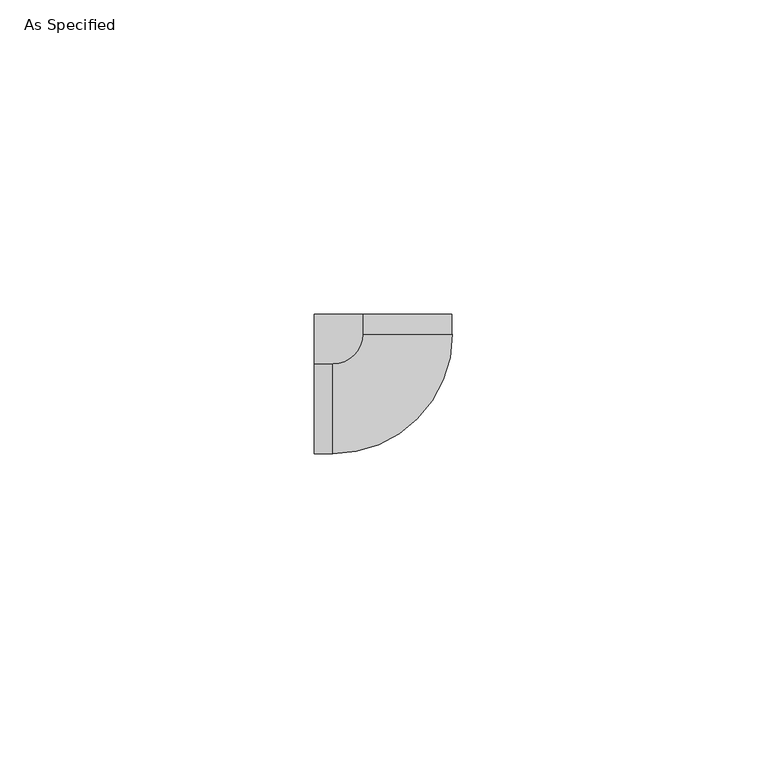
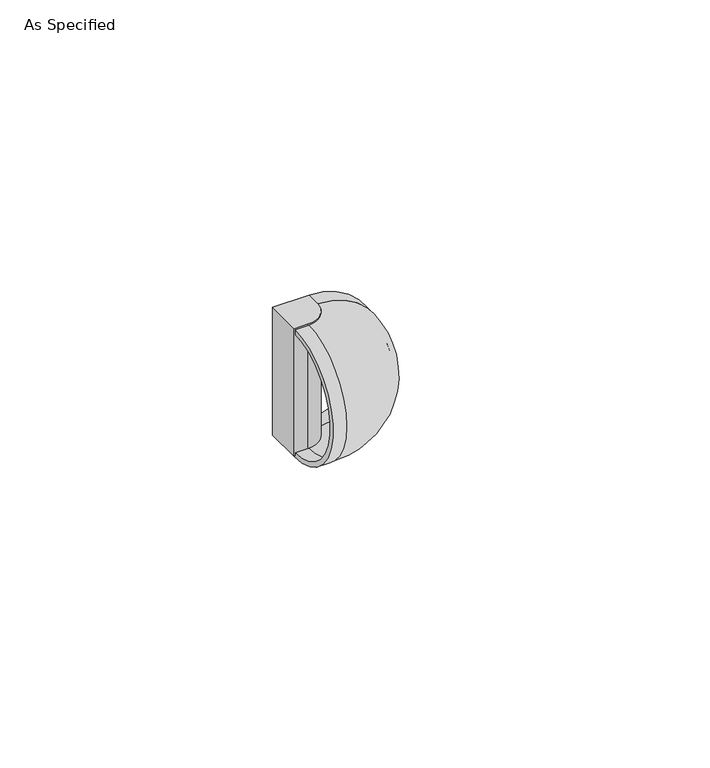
"""IFC4 building model written with IfcOpenShell, lengths in millimetres: proxy geometry, Bumper_McCue_CartGuard_1FLX_CG-10_End-Cap : As Specified."""

from ifc_helpers import new_model, si_unit, point, frame, frame_2d, origin, origin_with_axes, place, context, project, spatial, polyline, circle_curve, ellipse_curve, trimmed, segment, composite_curve, outline, extrude, source, transform, mapped, element, save
from ifc_brep_helpers import plane_surface, cylinder_surface, revolved_surface, advanced_brep


def as_specified_67cec5ee(model_context):
    return source(origin(), model_context, "Body", "SolidModel", [
        extrude(outline(composite_curve([segment(polyline([(7.7, 0.0), (7.7, -3.173)]), True, "CONTINUOUS"), segment(trimmed(circle_curve(frame_2d((2.973, -3.173)), 4.727), [point((7.7, -3.173))], [point((2.973, -7.9))], False, "CARTESIAN"), True, "CONTINUOUS"), segment(polyline([(2.973, -7.9), (0.0, -7.9), (0.0, 0.0), (7.7, 0.0)]), True, "CONTINUOUS")], self_intersect=False)), origin_with_axes(), (0.0, 0.0, 1.0), 28.6),
        advanced_brep(
        [(7.7, 0.0, 0.0), (7.7, 0.0, 1.0), (7.7, 0.0, 27.6), (7.7, 0.0, 28.6), (7.7, -3.173, 28.6), (7.7, -3.173, 0.0), (7.7, -3.173, 27.6), (7.7, -3.173, 1.0), (2.973, -7.9, 0.0), (2.973, -7.9, 28.6), (2.973, -7.9, 27.6), (2.973, -7.9, 1.0), (0.0, -7.9, 0.0), (0.0, -7.9, 28.6), (0.0, -7.9, 27.6), (0.0, -7.9, 1.0)],
        [
            (0, 1),
            (1, 2, circle_curve(frame((7.7, 0.0, 14.3), z_axis=(0.0, -1.0, 0.0), x_axis=(-1.0, 0.0, 0.0)), 13.3)),
            (2, 3),
            (3, 0, circle_curve(frame((7.7, 0.0, 14.3), z_axis=(0.0, 1.0, 0.0), x_axis=(-1.0, 0.0, 0.0)), 14.3)),
            (3, 4),
            (4, 5, circle_curve(frame((7.7, -3.173, 14.3), z_axis=(0.0, 1.0, 0.0), x_axis=(-1.0, 0.0, 0.0)), 14.3)),
            (5, 0),
            (2, 6),
            (6, 4),
            (1, 7),
            (7, 6, circle_curve(frame((7.7, -3.173, 14.3), z_axis=(0.0, -1.0, 0.0), x_axis=(-1.0, 0.0, 0.0)), 13.3)),
            (5, 7),
            (8, 5, circle_curve(frame((2.973, -3.173, 0.0), z_axis=(0.0, 0.0, 1.0), x_axis=(1.0, 0.0, 0.0)), 4.727)),
            (4, 9, circle_curve(frame((2.973, -3.173, 28.6), z_axis=(0.0, 0.0, -1.0), x_axis=(1.0, 0.0, 0.0)), 4.727)),
            (9, 8, circle_curve(frame((2.973, -7.9, 14.3), z_axis=(1.0, 0.0, 0.0), x_axis=(0.0, 1.0, 0.0)), 14.3)),
            (6, 10, circle_curve(frame((2.973, -3.173, 27.6), z_axis=(0.0, 0.0, -1.0), x_axis=(1.0, 0.0, 0.0)), 4.727)),
            (10, 9),
            (7, 11, circle_curve(frame((2.973, -3.173, 1.0), z_axis=(0.0, 0.0, -1.0), x_axis=(1.0, 0.0, 0.0)), 4.727)),
            (11, 10, circle_curve(frame((2.973, -7.9, 14.3), z_axis=(-1.0, 0.0, 0.0), x_axis=(0.0, 1.0, 0.0)), 13.3)),
            (8, 11),
            (12, 13, circle_curve(frame((0.0, -7.9, 14.3), z_axis=(-1.0, 0.0, 0.0), x_axis=(0.0, 1.0, 0.0)), 14.3)),
            (13, 14),
            (14, 15, circle_curve(frame((0.0, -7.9, 14.3), z_axis=(1.0, 0.0, 0.0), x_axis=(0.0, 1.0, 0.0)), 13.3)),
            (15, 12),
            (9, 13),
            (12, 8),
            (10, 14),
            (11, 15),
        ],
        [
            plane_surface(frame((22.0, 0.0, 28.6), z_axis=(0.0, 1.0, 0.0), x_axis=(0.0, 0.0, 1.0))),
            cylinder_surface(frame((7.7, 0.0, 14.3), z_axis=(0.0, 1.0, 0.0), x_axis=(-1.0, 0.0, 0.0)), 14.3),
            plane_surface(frame((7.7, 0.0, 27.6), z_axis=(-1.0, 0.0, 0.0), x_axis=(0.0, -1.0, 0.0))),
            revolved_surface(polyline([(-5.6000000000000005, -3.173, 14.3), (-5.6000000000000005, 0.0, 14.3)]), (7.7, 0.0, 14.3), (0.0, -1.0, 0.0)),
            plane_surface(frame((7.7, 0.0, 0.0), z_axis=(-1.0, 0.0, 0.0), x_axis=(0.0, -1.0, 0.0))),
            revolved_surface(trimmed(ellipse_curve(frame((7.7, -3.173, 14.3), z_axis=(0.0, 1.0, 0.0), x_axis=(-1.0, 0.0, 0.0)), 14.3, 14.3), [point((7.7, -3.173, 28.6))], [point((7.7, -3.173, 0.0))], True, "CARTESIAN"), (2.973, -3.173, 28.6), (0.0, 0.0, -1.0)),
            revolved_surface(polyline([(7.7, -3.173, 27.6), (7.7, -3.173, 28.6)]), (2.973, -3.173, 28.6), (0.0, 0.0, -1.0)),
            revolved_surface(trimmed(ellipse_curve(frame((7.7, -3.173, 14.3), z_axis=(0.0, -1.0, 0.0), x_axis=(-1.0, 0.0, 0.0)), 13.3, 13.3), [point((7.7, -3.173, 1.0))], [point((7.7, -3.173, 27.6))], True, "CARTESIAN"), (2.973, -3.173, 28.6), (0.0, 0.0, -1.0)),
            revolved_surface(polyline([(7.7, -3.173, 0.0), (7.7, -3.173, 1.0)]), (2.973, -3.173, 28.6), (0.0, 0.0, -1.0)),
            plane_surface(frame((0.0, -22.2, 28.6), z_axis=(-1.0, 0.0, 0.0), x_axis=(0.0, 0.0, 1.0))),
            cylinder_surface(frame((2.973, -7.9, 14.3), z_axis=(1.0, 0.0, 0.0), x_axis=(0.0, 1.0, 0.0)), 14.3),
            plane_surface(frame((2.973, -7.9, 27.6), z_axis=(0.0, 1.0, 0.0), x_axis=(-1.0, 0.0, 0.0))),
            revolved_surface(polyline([(0.0, 5.4, 14.3), (2.973, 5.4, 14.3)]), (2.973, -7.9, 14.3), (-1.0, 0.0, 0.0)),
            plane_surface(frame((2.973, -7.9, 0.0), z_axis=(0.0, 1.0, 0.0), x_axis=(-1.0, 0.0, 0.0))),
        ],
        [
            (0, [[1, 2, 3, 4]]),
            (1, [[-4, 5, 6, 7]]),
            (2, [[-3, 8, 9, -5]]),
            (3, [[-2, 10, 11, -8]]),
            (4, [[-1, -7, 12, -10]]),
            (5, [[13, -6, 14, 15]]),
            (6, [[-14, -9, 16, 17]]),
            (7, [[-16, -11, 18, 19]]),
            (8, [[-18, -12, -13, 20]]),
            (9, [[21, 22, 23, 24]]),
            (10, [[-15, 25, -21, 26]]),
            (11, [[-17, 27, -22, -25]]),
            (12, [[-19, 28, -23, -27]]),
            (13, [[-20, -26, -24, -28]]),
        ],
    ),
    ])


if __name__ == "__main__":
    model = new_model("IFC4")
    model_context = context("Model", 3, world=origin())
    ifc_project = project(units=[si_unit("LENGTHUNIT", "METRE", prefix="MILLI")], contexts=[model_context])
    site = spatial("IfcSite", under=ifc_project)
    building = spatial("IfcBuilding", under=site)
    placement = place(None, origin())
    as_specified_shape = as_specified_67cec5ee(model_context)
    element("IfcBuildingElementProxy", 1, Name="Bumper_McCue_CartGuard_1FLX_CG-10_End-Cap : As Specified", ObjectType="Bumper_McCue_CartGuard_1FLX_CG-10_End-Cap : As Specified", at=placement, inside=building, context=model_context, shape_type="MappedRepresentation", body=[
        mapped(as_specified_shape, transform((0.0, 0.0, 0.0), x_axis=(1.0, 0.0, 0.0), y_axis=(0.0, 1.0, 0.0), z_axis=(0.0, 0.0, 1.0))),
    ])
    save(model, "model.ifc")
